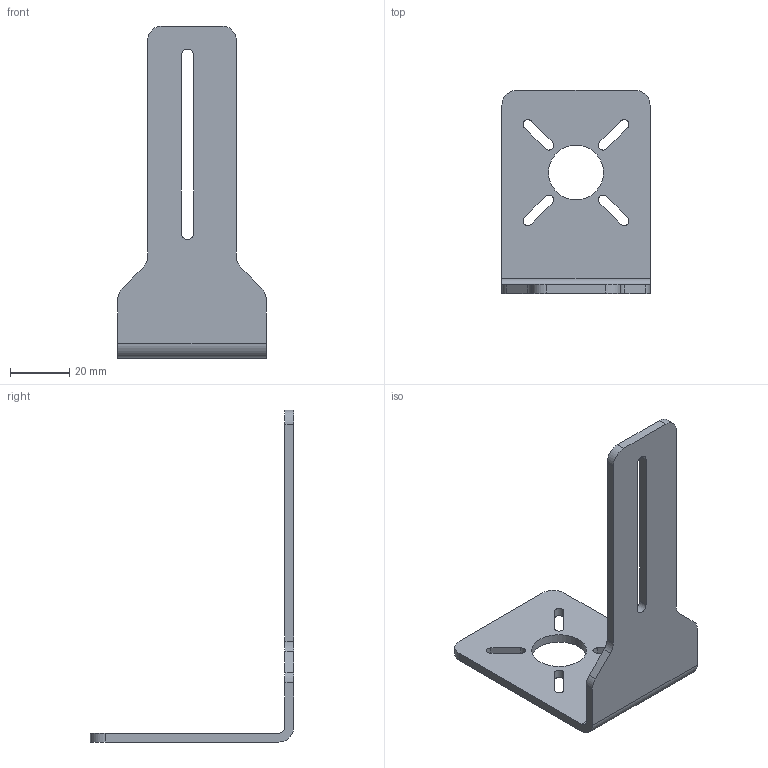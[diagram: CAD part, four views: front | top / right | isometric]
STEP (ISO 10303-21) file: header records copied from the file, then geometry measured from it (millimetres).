
FILE_DESCRIPTION(/* description */ (''),/* implementation_level */ '2;1');
FILE_NAME(/* name */ 'C:\#Vault-WorkDir\Konstruktions-Dokumente\Projekte\FA45\153-00707_MA LR-18_112 FA 45 Haltewinkel Beleuchtung.stp',/* time_stamp */ '2018-05-02T08:31:32+02:00',/* author */ ('SensoPart'),/* organization */ ('SensoPart'),/* preprocessor_version */ 'ST-DEVELOPER v17',/* originating_system */ 'Autodesk Inventor 2018',/* authorisation */ '');
FILE_SCHEMA (('AUTOMOTIVE_DESIGN { 1 0 10303 214 3 1 1 }'));
Length unit declared in the file: millimetre
Products named in the file (1): 04113225 TEIL1
Bounding box: 50 x 68.6 x 112 mm (x, y, z)
Volume: 19165.8 mm3; surface area: 15004.9 mm2
Topology: 1 solids, 1 shells, 43 faces, 123 edges, 82 vertices
Faces by surface type: plane 22, cylinder 21
Full cylindrical faces by diameter (mm): 18.5 x1
Entity records: 1482 total; most frequent: DIRECTION 253, CARTESIAN_POINT 249, ORIENTED_EDGE 246, EDGE_CURVE 123, AXIS2_PLACEMENT_3D 86, VERTEX_POINT 82, LINE 81, VECTOR 81
